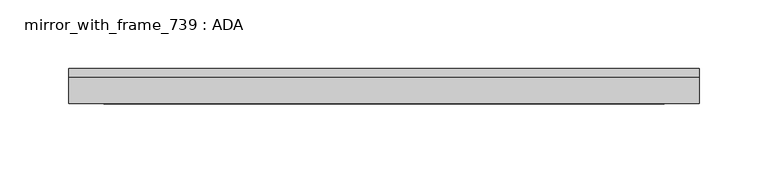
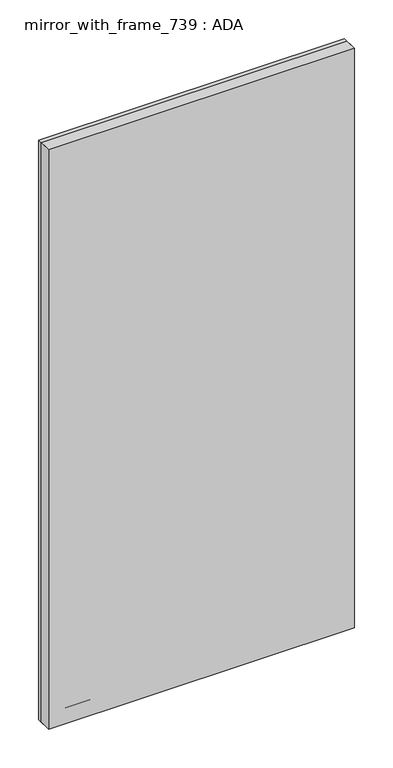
"""IFC4 building model written with IfcOpenShell, lengths in millimetres: proxy geometry, mirror_with_frame_739 : ADA."""

import ifcopenshell
import ifcopenshell.guid

model = None  # the IFC model being written
_history = None  # IfcOwnerHistory: only IFC2X3 demands one
_inside = {}  # id of a spatial element -> (the spatial element, [elements in it])
_under = {}  # id of a project, library or spatial element -> (it, [spatial elements below it])
_declared = {}  # id of a project -> (the project, [libraries it declares])
_typed = {}  # id of a type object -> (the type object, [elements of that type])
_made_of = {}  # id of a material, layer set ... -> (it, [elements and type objects made of it])


def new_model(schema):
    """Start an empty IFC model of exactly this schema.

    Asked for "IFC4X3", IfcOpenShell would pick the latest addendum, in which some entities
    have other attributes; the version numbers below select the first issue.
    IFC2X3 requires an IfcOwnerHistory on every rooted entity: one is made here for all.
    """
    global model, _history
    if schema == "IFC4X3":
        model = ifcopenshell.file(schema_version=(4, 3, 0, 0))
    else:
        model = ifcopenshell.file(schema=schema)
    _inside.clear()
    _under.clear()
    _declared.clear()
    _typed.clear()
    _made_of.clear()
    _history = None
    if model.schema == "IFC2X3":
        org = make("IfcOrganization", Name="unknown")
        user = make(
            "IfcPersonAndOrganization",
            ThePerson=make("IfcPerson", FamilyName="unknown"),
            TheOrganization=org,
        )
        app = make(
            "IfcApplication",
            ApplicationDeveloper=org,
            Version="unknown",
            ApplicationFullName="unknown",
            ApplicationIdentifier="unknown",
        )
        _history = make(
            "IfcOwnerHistory",
            OwningUser=user,
            OwningApplication=app,
            ChangeAction="ADDED",
            CreationDate=0,
        )
    return model


def make(cls, **values):
    """One entity of the class cls with the attributes given. An attribute that is None is left unset."""
    return model.create_entity(
        cls, **{name: value for name, value in values.items() if value is not None}
    )


def rooted(cls, **values):
    """An entity with a GlobalId (a new one), such as an element, a storey or a relation."""
    return make(cls, GlobalId=ifcopenshell.guid.new(), OwnerHistory=_history, **values)


def si_unit(unit_type, name, prefix=None):
    """IfcSIUnit, for example si_unit("LENGTHUNIT", "METRE", prefix="MILLI")."""
    return make("IfcSIUnit", UnitType=unit_type, Prefix=prefix, Name=name)


def assignment(units):
    """IfcUnitAssignment: the units of a project."""
    return None if units is None else make("IfcUnitAssignment", Units=units)


def point(xyz):
    """IfcCartesianPoint."""
    return None if xyz is None else make("IfcCartesianPoint", Coordinates=xyz)


def direction(xyz):
    """IfcDirection."""
    return None if xyz is None else make("IfcDirection", DirectionRatios=xyz)


def frame(location, z_axis=None, x_axis=None):
    """IfcAxis2Placement3D, a coordinate frame: its origin and axes. An axis left out is left unset."""
    return make(
        "IfcAxis2Placement3D",
        Location=point(location),
        Axis=direction(z_axis),
        RefDirection=direction(x_axis),
    )


def origin():
    """The frame at (0, 0, 0) with its axes left unset."""
    return frame((0.0, 0.0, 0.0))


def place(relative_to, where):
    """IfcLocalPlacement: puts the frame where relative to a parent placement (None: the world)."""
    return make(
        "IfcLocalPlacement", PlacementRelTo=relative_to, RelativePlacement=where
    )


def context(
    kind, dimensions, precision=None, world=None, true_north=None, identifier=None
):
    """IfcGeometricRepresentationContext, for example the 3D "Model" context."""
    return make(
        "IfcGeometricRepresentationContext",
        ContextIdentifier=identifier,
        ContextType=kind,
        CoordinateSpaceDimension=dimensions,
        Precision=precision,
        WorldCoordinateSystem=world,
        TrueNorth=true_north,
    )


def project(units=None, contexts=None):
    """IfcProject with its units and contexts."""
    return rooted(
        "IfcProject",
        Name="project",
        RepresentationContexts=contexts,
        UnitsInContext=assignment(units),
    )


def spatial(cls, under=None, at=None, **own):
    """A site, building, storey or space (cls), placed at a placement, below another one or the project."""
    s = rooted(cls, ObjectPlacement=at, **own)
    if under is not None:
        _under.setdefault(under.id(), (under, []))[1].append(s)
    return s


def polyline(points):
    """IfcPolyline through the points."""
    return make("IfcPolyline", Points=[point(p) for p in points])


def outline(outer, holes=None, kind="AREA"):
    """IfcArbitraryClosedProfileDef: a profile drawn as a closed curve; with holes, ...WithVoids."""
    if holes is None:
        return make("IfcArbitraryClosedProfileDef", ProfileType=kind, OuterCurve=outer)
    return make(
        "IfcArbitraryProfileDefWithVoids",
        ProfileType=kind,
        OuterCurve=outer,
        InnerCurves=holes,
    )


def extrude(swept, where, along, depth):
    """IfcExtrudedAreaSolid: the profile swept, set in the frame where, extruded along a direction by depth."""
    return make(
        "IfcExtrudedAreaSolid",
        SweptArea=swept,
        Position=where,
        ExtrudedDirection=direction(along),
        Depth=depth,
    )


def shape(context_of_items, identifier, shape_type, items):
    """IfcShapeRepresentation: the items that make up one representation, for example the "Body"."""
    return make(
        "IfcShapeRepresentation",
        ContextOfItems=context_of_items,
        RepresentationIdentifier=identifier,
        RepresentationType=shape_type,
        Items=items,
    )


def source(mapping_origin, context_of_items, identifier, shape_type, items):
    """IfcRepresentationMap: a shape defined once, which mapped items show again and again."""
    return make(
        "IfcRepresentationMap",
        MappingOrigin=mapping_origin,
        MappedRepresentation=shape(context_of_items, identifier, shape_type, items),
    )


def transform(
    local_origin,
    x_axis=None,
    y_axis=None,
    z_axis=None,
    scale=None,
    scale2=None,
    scale3=None,
    uniform=True,
):
    """IfcCartesianTransformationOperator3D, or its non-uniform kind. x_axis, y_axis, z_axis: its Axis1, 2, 3."""
    if uniform:
        return make(
            "IfcCartesianTransformationOperator3D",
            Axis1=direction(x_axis),
            Axis2=direction(y_axis),
            LocalOrigin=point(local_origin),
            Scale=scale,
            Axis3=direction(z_axis),
        )
    return make(
        "IfcCartesianTransformationOperator3DnonUniform",
        Axis1=direction(x_axis),
        Axis2=direction(y_axis),
        LocalOrigin=point(local_origin),
        Scale=scale,
        Axis3=direction(z_axis),
        Scale2=scale2,
        Scale3=scale3,
    )


def mapped(mapping_source, mapping_target):
    """IfcMappedItem: shows the shape of a source again, moved by a transform."""
    return make(
        "IfcMappedItem", MappingSource=mapping_source, MappingTarget=mapping_target
    )


def made_of(thing, what):
    """Note that an element or type object is made of a material, layer set ...; save() writes the relation."""
    if what is not None:
        _made_of.setdefault(what.id(), (what, []))[1].append(thing)
    return thing


def element(
    cls,
    number,
    at=None,
    inside=None,
    cuts=None,
    type_object=None,
    material=None,
    context=None,
    identifier="Body",
    shape_type=None,
    held_by="IfcProductDefinitionShape",
    body=None,
    shapes=None,
    **own,
):
    """One element of the class cls, such as IfcWall. Its Tag is "e" and its number.

    at: its placement. inside: the storey or other place that contains it. cuts: it is an
    opening in that element (IfcRelVoidsElement). A single representation is given by context,
    identifier, shape_type and body (its items); several are given by shapes. held_by: the class
    of the entity that holds the representations. save() writes the other relations.
    """
    e = rooted(cls, Tag="e%d" % number, ObjectPlacement=at, **own)
    if body is not None:
        shapes = [shape(context, identifier, shape_type, body)]
    if shapes is not None:
        e.Representation = make(held_by, Representations=shapes)
    if inside is not None:
        _inside.setdefault(inside.id(), (inside, []))[1].append(e)
    if cuts is not None:
        rooted(
            "IfcRelVoidsElement", RelatingBuildingElement=cuts, RelatedOpeningElement=e
        )
    if type_object is not None:
        _typed.setdefault(type_object.id(), (type_object, []))[1].append(e)
    return made_of(e, material)


def aggregate(whole, parts):
    """IfcRelAggregates: a whole, such as a stair, and the parts it consists of."""
    return rooted("IfcRelAggregates", RelatingObject=whole, RelatedObjects=parts)


def save(model, path):
    """Write the relations noted so far, then the file.

    IfcRelAggregates (storeys below a building ...), IfcRelContainedInSpatialStructure (elements
    in a storey), IfcRelDefinesByType, IfcRelAssociatesMaterial and IfcRelDeclares: one each for
    every whole, place, type object, material and project.
    """
    for whole, parts in _under.values():
        aggregate(whole, parts)
    for where, things in _inside.values():
        rooted(
            "IfcRelContainedInSpatialStructure",
            RelatedElements=things,
            RelatingStructure=where,
        )
    for kind, things in _typed.values():
        rooted("IfcRelDefinesByType", RelatedObjects=things, RelatingType=kind)
    for what, things in _made_of.values():
        rooted("IfcRelAssociatesMaterial", RelatedObjects=things, RelatingMaterial=what)
    for by, libraries in _declared.values():
        rooted("IfcRelDeclares", RelatingContext=by, RelatedDefinitions=libraries)
    model.write(path)


def mirror_with_frame_739_ada_cf025913(model_context):
    return source(origin(), model_context, "Body", "SweptSolid", [
        extrude(outline(polyline([(-204.1296989, 79.375), (253.0703011, 79.375), (253.0703011, 60.325), (-204.1296989, 60.325), (-204.1296989, 79.375)])), frame((0.0, 0.0, 1003.3), z_axis=(0.0, 0.0, 1.0), x_axis=(1.0, 0.0, 0.0)), (0.0, 0.0, 1.0), 914.4),
        extrude(outline(polyline([(1917.7, -204.1296989), (1003.3, -204.1296989), (1003.3, 253.0703011), (1917.7, 253.0703011), (1917.7, -204.1296989)]), holes=[polyline([(1028.7, 227.6703011), (1028.7, -178.7296989), (1892.3, -178.7296989), (1892.3, 227.6703011), (1028.7, 227.6703011)])]), frame((0.0, 60.325, 0.0), z_axis=(0.0, 1.0, 0.0), x_axis=(0.0, 0.0, 1.0)), (0.0, 0.0, 1.0), 25.4),
    ])


if __name__ == "__main__":
    model = new_model("IFC4")
    model_context = context("Model", 3, world=origin())
    ifc_project = project(units=[si_unit("LENGTHUNIT", "METRE", prefix="MILLI")], contexts=[model_context])
    site = spatial("IfcSite", under=ifc_project)
    building = spatial("IfcBuilding", under=site)
    placement = place(None, origin())
    mirror_with_frame_739_ada_shape = mirror_with_frame_739_ada_cf025913(model_context)
    element("IfcBuildingElementProxy", 1, Name="mirror_with_frame_739 : ADA", ObjectType="mirror_with_frame_739 : ADA", at=placement, inside=building, context=model_context, shape_type="MappedRepresentation", body=[
        mapped(mirror_with_frame_739_ada_shape, transform((0.0, 0.0, 0.0), x_axis=(1.0, 0.0, 0.0), y_axis=(0.0, 1.0, 0.0), z_axis=(0.0, 0.0, 1.0))),
    ])
    save(model, "model.ifc")
